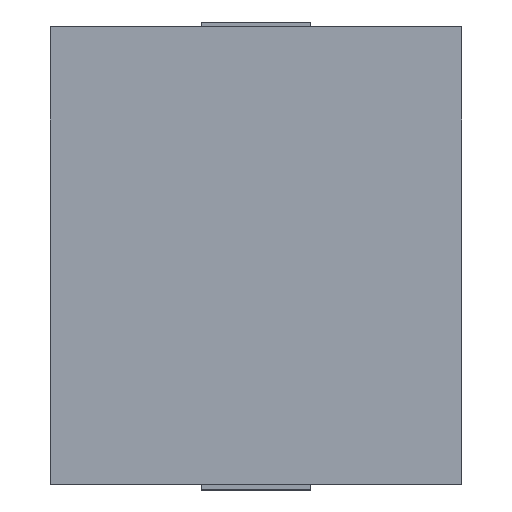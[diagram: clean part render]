
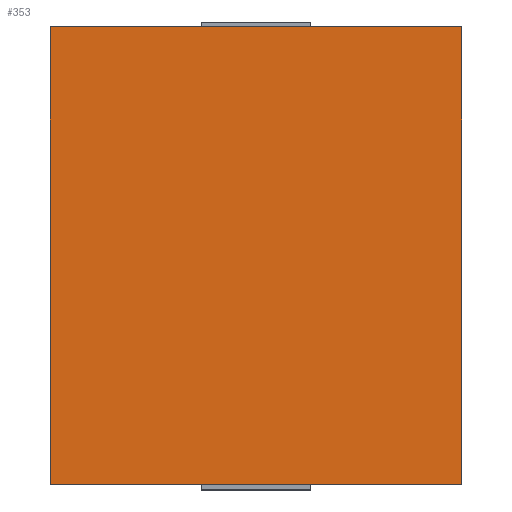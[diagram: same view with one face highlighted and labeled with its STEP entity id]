
A CAD part, top view. The second image highlights one B-rep face of the part: STEP entity #353.
In plain terms, the highlighted planar face has unit normal (0, 0, 1).
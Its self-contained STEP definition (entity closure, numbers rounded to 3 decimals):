
#39 = VERTEX_POINT('',#40);
#40 = CARTESIAN_POINT('',(-2.7,3.,3.));
#47 = PLANE('',#48);
#48 = AXIS2_PLACEMENT_3D('',#49,#50,#51);
#49 = CARTESIAN_POINT('',(-2.7,3.,0.));
#50 = DIRECTION('',(0.,1.,0.));
#51 = DIRECTION('',(1.,0.,0.));
#59 = PLANE('',#60);
#60 = AXIS2_PLACEMENT_3D('',#61,#62,#63);
#61 = CARTESIAN_POINT('',(-2.7,-3.,0.));
#62 = DIRECTION('',(-1.,0.,0.));
#63 = DIRECTION('',(0.,1.,0.));
#71 = EDGE_CURVE('',#39,#72,#74,.T.);
#72 = VERTEX_POINT('',#73);
#73 = CARTESIAN_POINT('',(2.7,3.,3.));
#74 = SURFACE_CURVE('',#75,(#79,#86),.PCURVE_S1.);
#75 = LINE('',#76,#77);
#76 = CARTESIAN_POINT('',(-2.7,3.,3.));
#77 = VECTOR('',#78,1.);
#78 = DIRECTION('',(1.,0.,0.));
#79 = PCURVE('',#47,#80);
#80 = DEFINITIONAL_REPRESENTATION('',(#81),#85);
#81 = LINE('',#82,#83);
#82 = CARTESIAN_POINT('',(0.,-3.));
#83 = VECTOR('',#84,1.);
#84 = DIRECTION('',(1.,0.));
#85 = ( GEOMETRIC_REPRESENTATION_CONTEXT(2) 
PARAMETRIC_REPRESENTATION_CONTEXT() REPRESENTATION_CONTEXT('2D SPACE',''
  ) );
#86 = PCURVE('',#87,#92);
#87 = PLANE('',#88);
#88 = AXIS2_PLACEMENT_3D('',#89,#90,#91);
#89 = CARTESIAN_POINT('',(0.,0.,3.));
#90 = DIRECTION('',(-0.,-0.,-1.));
#91 = DIRECTION('',(-1.,0.,0.));
#92 = DEFINITIONAL_REPRESENTATION('',(#93),#97);
#93 = LINE('',#94,#95);
#94 = CARTESIAN_POINT('',(2.7,3.));
#95 = VECTOR('',#96,1.);
#96 = DIRECTION('',(-1.,0.));
#97 = ( GEOMETRIC_REPRESENTATION_CONTEXT(2) 
PARAMETRIC_REPRESENTATION_CONTEXT() REPRESENTATION_CONTEXT('2D SPACE',''
  ) );
#115 = PLANE('',#116);
#116 = AXIS2_PLACEMENT_3D('',#117,#118,#119);
#117 = CARTESIAN_POINT('',(2.7,3.,0.));
#118 = DIRECTION('',(1.,0.,-0.));
#119 = DIRECTION('',(0.,-1.,0.));
#157 = EDGE_CURVE('',#72,#158,#160,.T.);
#158 = VERTEX_POINT('',#159);
#159 = CARTESIAN_POINT('',(2.7,-3.,3.));
#160 = SURFACE_CURVE('',#161,(#165,#172),.PCURVE_S1.);
#161 = LINE('',#162,#163);
#162 = CARTESIAN_POINT('',(2.7,3.,3.));
#163 = VECTOR('',#164,1.);
#164 = DIRECTION('',(0.,-1.,0.));
#165 = PCURVE('',#115,#166);
#166 = DEFINITIONAL_REPRESENTATION('',(#167),#171);
#167 = LINE('',#168,#169);
#168 = CARTESIAN_POINT('',(0.,-3.));
#169 = VECTOR('',#170,1.);
#170 = DIRECTION('',(1.,0.));
#171 = ( GEOMETRIC_REPRESENTATION_CONTEXT(2) 
PARAMETRIC_REPRESENTATION_CONTEXT() REPRESENTATION_CONTEXT('2D SPACE',''
  ) );
#172 = PCURVE('',#87,#173);
#173 = DEFINITIONAL_REPRESENTATION('',(#174),#178);
#174 = LINE('',#175,#176);
#175 = CARTESIAN_POINT('',(-2.7,3.));
#176 = VECTOR('',#177,1.);
#177 = DIRECTION('',(0.,-1.));
#178 = ( GEOMETRIC_REPRESENTATION_CONTEXT(2) 
PARAMETRIC_REPRESENTATION_CONTEXT() REPRESENTATION_CONTEXT('2D SPACE',''
  ) );
#196 = PLANE('',#197);
#197 = AXIS2_PLACEMENT_3D('',#198,#199,#200);
#198 = CARTESIAN_POINT('',(2.7,-3.,0.));
#199 = DIRECTION('',(0.,-1.,0.));
#200 = DIRECTION('',(-1.,0.,0.));
#233 = EDGE_CURVE('',#158,#234,#236,.T.);
#234 = VERTEX_POINT('',#235);
#235 = CARTESIAN_POINT('',(-2.7,-3.,3.));
#236 = SURFACE_CURVE('',#237,(#241,#248),.PCURVE_S1.);
#237 = LINE('',#238,#239);
#238 = CARTESIAN_POINT('',(2.7,-3.,3.));
#239 = VECTOR('',#240,1.);
#240 = DIRECTION('',(-1.,0.,0.));
#241 = PCURVE('',#196,#242);
#242 = DEFINITIONAL_REPRESENTATION('',(#243),#247);
#243 = LINE('',#244,#245);
#244 = CARTESIAN_POINT('',(0.,-3.));
#245 = VECTOR('',#246,1.);
#246 = DIRECTION('',(1.,0.));
#247 = ( GEOMETRIC_REPRESENTATION_CONTEXT(2) 
PARAMETRIC_REPRESENTATION_CONTEXT() REPRESENTATION_CONTEXT('2D SPACE',''
  ) );
#248 = PCURVE('',#87,#249);
#249 = DEFINITIONAL_REPRESENTATION('',(#250),#254);
#250 = LINE('',#251,#252);
#251 = CARTESIAN_POINT('',(-2.7,-3.));
#252 = VECTOR('',#253,1.);
#253 = DIRECTION('',(1.,0.));
#254 = ( GEOMETRIC_REPRESENTATION_CONTEXT(2) 
PARAMETRIC_REPRESENTATION_CONTEXT() REPRESENTATION_CONTEXT('2D SPACE',''
  ) );
#304 = EDGE_CURVE('',#234,#39,#305,.T.);
#305 = SURFACE_CURVE('',#306,(#310,#317),.PCURVE_S1.);
#306 = LINE('',#307,#308);
#307 = CARTESIAN_POINT('',(-2.7,-3.,3.));
#308 = VECTOR('',#309,1.);
#309 = DIRECTION('',(0.,1.,0.));
#310 = PCURVE('',#59,#311);
#311 = DEFINITIONAL_REPRESENTATION('',(#312),#316);
#312 = LINE('',#313,#314);
#313 = CARTESIAN_POINT('',(0.,-3.));
#314 = VECTOR('',#315,1.);
#315 = DIRECTION('',(1.,0.));
#316 = ( GEOMETRIC_REPRESENTATION_CONTEXT(2) 
PARAMETRIC_REPRESENTATION_CONTEXT() REPRESENTATION_CONTEXT('2D SPACE',''
  ) );
#317 = PCURVE('',#87,#318);
#318 = DEFINITIONAL_REPRESENTATION('',(#319),#323);
#319 = LINE('',#320,#321);
#320 = CARTESIAN_POINT('',(2.7,-3.));
#321 = VECTOR('',#322,1.);
#322 = DIRECTION('',(0.,1.));
#323 = ( GEOMETRIC_REPRESENTATION_CONTEXT(2) 
PARAMETRIC_REPRESENTATION_CONTEXT() REPRESENTATION_CONTEXT('2D SPACE',''
  ) );
#353 = ADVANCED_FACE('',(#354),#87,.F.);
#354 = FACE_BOUND('',#355,.F.);
#355 = EDGE_LOOP('',(#356,#357,#358,#359));
#356 = ORIENTED_EDGE('',*,*,#71,.T.);
#357 = ORIENTED_EDGE('',*,*,#157,.T.);
#358 = ORIENTED_EDGE('',*,*,#233,.T.);
#359 = ORIENTED_EDGE('',*,*,#304,.T.);
